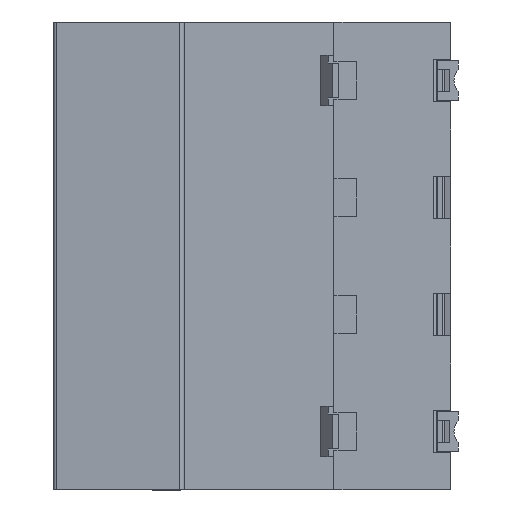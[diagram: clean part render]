
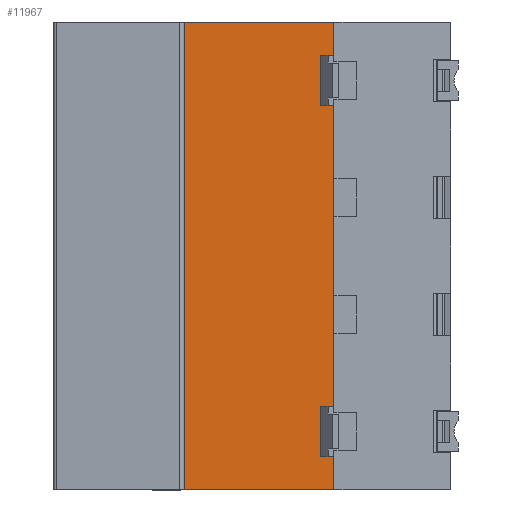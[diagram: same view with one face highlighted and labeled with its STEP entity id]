
A CAD part, front view. The second image highlights one B-rep face of the part: STEP entity #11967.
In plain terms, the highlighted planar face has unit normal (0, -1, 0).
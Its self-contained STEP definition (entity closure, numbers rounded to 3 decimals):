
#2689 = VECTOR ( 'NONE', #6675, 1000. ) ;
#5024 = EDGE_LOOP ( 'NONE', ( #62486, #35018, #35020, #35023 ) ) ;
#5615 = VECTOR ( 'NONE', #12287, 1000. ) ;
#6672 = LINE ( 'NONE', #6673, #2689 ) ;
#6673 = CARTESIAN_POINT ( 'NONE',  ( -23.829, -32.772, -92.75 ) ) ;
#6675 = DIRECTION ( 'NONE',  ( -1., 0., 0. ) ) ;
#11967 = ADVANCED_FACE ( 'NONE', ( #24190 ), #24150, .F. ) ;
#12284 = LINE ( 'NONE', #12286, #5615 ) ;
#12286 = CARTESIAN_POINT ( 'NONE',  ( -23.829, -32.772, 13.25 ) ) ;
#12287 = DIRECTION ( 'NONE',  ( 0., 0., 1. ) ) ;
#24150 = PLANE ( 'NONE',  #53327 ) ;
#24190 = FACE_OUTER_BOUND ( 'NONE', #5024, .T. ) ;
#24220 = CARTESIAN_POINT ( 'NONE',  ( -23.829, -32.772, 13.25 ) ) ;
#24222 = DIRECTION ( 'NONE',  ( 0., 1., 0. ) ) ;
#24224 = DIRECTION ( 'NONE',  ( -1., 0., 0. ) ) ;
#28007 = EDGE_CURVE ( 'NONE', #38176, #38174, #12284, .T. ) ;
#29559 = EDGE_CURVE ( 'NONE', #38086, #38176, #6672, .T. ) ;
#35018 = ORIENTED_EDGE ( 'NONE', *, *, #28007, .F. ) ;
#35020 = ORIENTED_EDGE ( 'NONE', *, *, #29559, .F. ) ;
#35023 = ORIENTED_EDGE ( 'NONE', *, *, #35493, .F. ) ;
#35493 = EDGE_CURVE ( 'NONE', #38386, #38086, #49201, .T. ) ;
#35507 = EDGE_CURVE ( 'NONE', #38386, #38174, #49243, .T. ) ;
#38086 = VERTEX_POINT ( 'NONE', #57270 ) ;
#38174 = VERTEX_POINT ( 'NONE', #57358 ) ;
#38176 = VERTEX_POINT ( 'NONE', #57360 ) ;
#38386 = VERTEX_POINT ( 'NONE', #55124 ) ;
#44231 = VECTOR ( 'NONE', #49204, 1000. ) ;
#44249 = VECTOR ( 'NONE', #49248, 1000. ) ;
#49185 = CARTESIAN_POINT ( 'NONE',  ( 12.171, -32.772, 13.25 ) ) ;
#49201 = LINE ( 'NONE', #49185, #44231 ) ;
#49204 = DIRECTION ( 'NONE',  ( 0., 0., -1. ) ) ;
#49224 = CARTESIAN_POINT ( 'NONE',  ( 38.671, -32.772, 13.25 ) ) ;
#49243 = LINE ( 'NONE', #49224, #44249 ) ;
#49248 = DIRECTION ( 'NONE',  ( -1., 0., 0. ) ) ;
#53327 = AXIS2_PLACEMENT_3D ( 'NONE', #24220, #24222, #24224 ) ;
#55124 = CARTESIAN_POINT ( 'NONE',  ( 12.171, -32.772, 13.25 ) ) ;
#57270 = CARTESIAN_POINT ( 'NONE',  ( 12.171, -32.772, -92.75 ) ) ;
#57358 = CARTESIAN_POINT ( 'NONE',  ( -23.829, -32.772, 13.25 ) ) ;
#57360 = CARTESIAN_POINT ( 'NONE',  ( -23.829, -32.772, -92.75 ) ) ;
#62486 = ORIENTED_EDGE ( 'NONE', *, *, #35507, .T. ) ;
